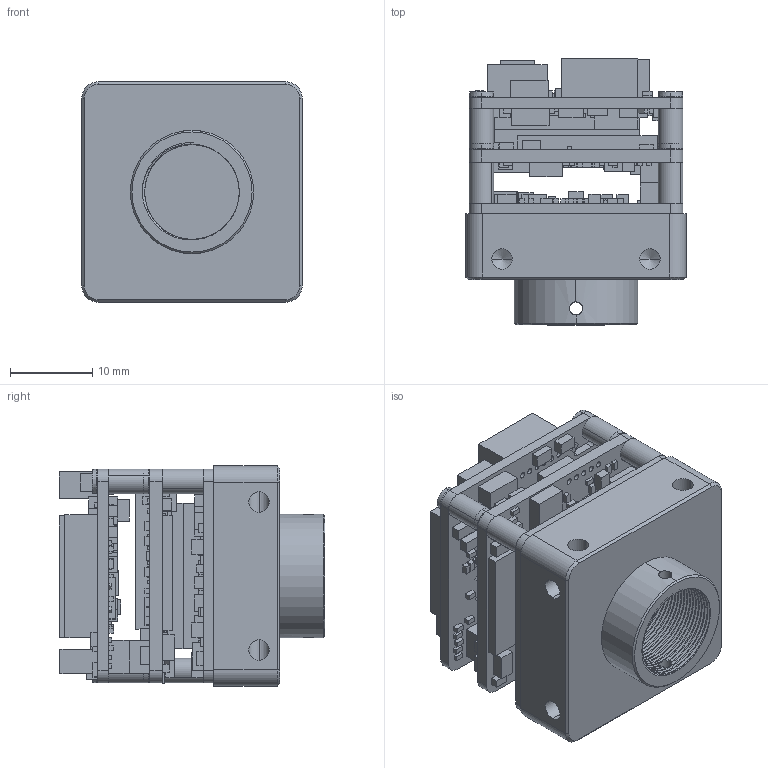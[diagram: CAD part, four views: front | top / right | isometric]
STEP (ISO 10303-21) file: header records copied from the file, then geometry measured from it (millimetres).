
FILE_DESCRIPTION (( 'STEP AP203' ), '1' );
FILE_NAME ('VM-M12.STEP', '2023-06-17T09:22:04', ( '' ), ( '' ), 'SwSTEP 2.0', 'SolidWorks 2022', '' );
FILE_SCHEMA (( 'CONFIG_CONTROL_DESIGN' ));
Length unit declared in the file: millimetre
Products named in the file (7): PS178-003; ML26-005; S180001-008; VM-M12; S210011-001-A0; GB_CROSS_SCREWS_TYPE135 M2X5-N_GB_CROSS_SCREWS_TYPE135 M2X5-N; MG26H-003-VM
Assembly tree (16 placements, depth 2):
  VM-M12
    S210011-001-A0
    PS178-003
    ML26-005
    MG26H-003-VM
    S180001-008  x6
    GB_CROSS_SCREWS_TYPE135 M2X5-N_GB_CROSS_SCREWS_TYPE135 M2X5-N  x6
Bounding box: 26.8 x 32.31 x 26.8 mm (x, y, z)
Volume: 9909.6 mm3; surface area: 14462.6 mm2
Topology: 305 solids, 305 shells, 2259 faces, 4839 edges, 3188 vertices
Faces by surface type: plane 1902, cylinder 259, cone 74, bspline 12, torus 12
Entity records: 61636 total; most frequent: CARTESIAN_POINT 16786, ORIENTED_EDGE 8674, DIRECTION 8586, EDGE_CURVE 4337, VECTOR 3850, LINE 3850, VERTEX_POINT 2883, AXIS2_PLACEMENT_3D 2368
